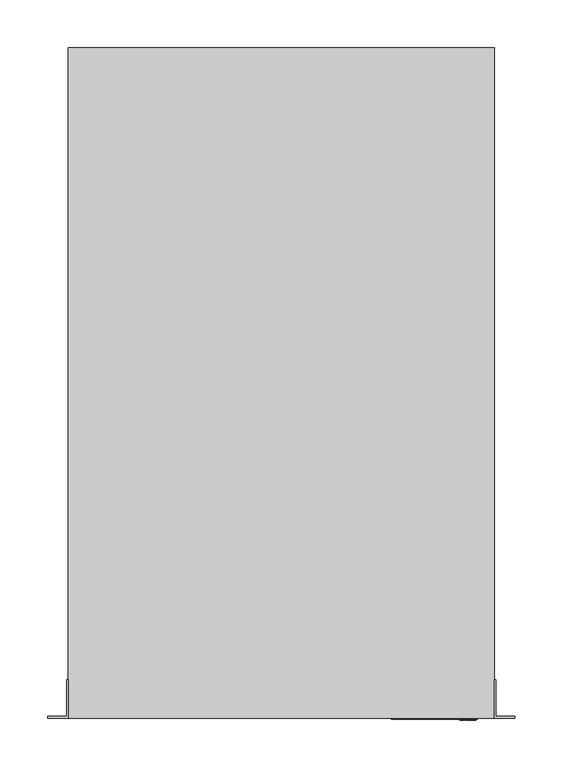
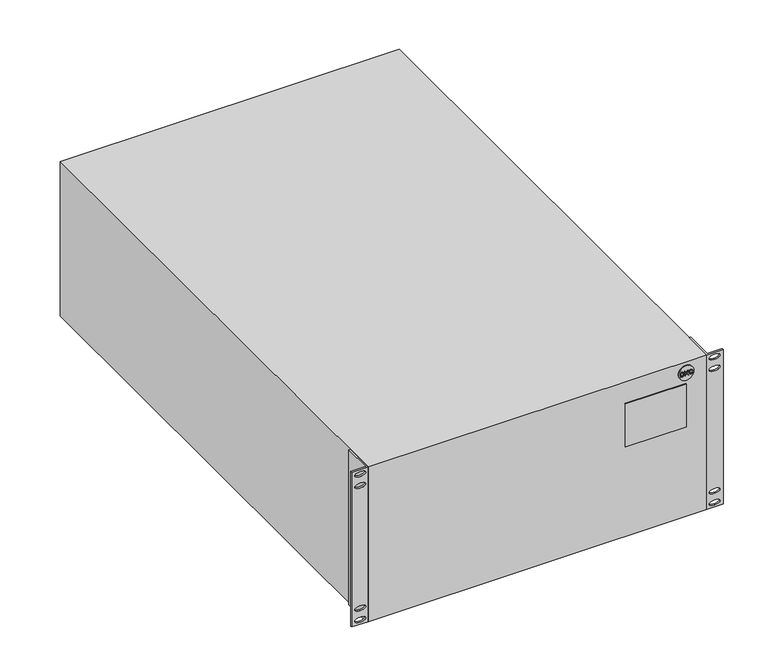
"""IFC4 building model written with IfcOpenShell, lengths in millimetres: proxy geometry, НВО_КНС_БатарейныйБлокSoloMD_DKC : BBC15P2A7."""

from ifc_helpers import new_model, si_unit, point, frame, frame_2d, origin, origin_with_axes, place, context, project, spatial, polyline, circle_curve, ellipse_curve, trimmed, segment, composite_curve, outline, extrude, source, transform, mapped, element, save
from ifc_brep_helpers import plane_surface, extruded_surface, advanced_brep


def electrical_equipment_2a145548(model_context):
    return source(origin(), model_context, "Body", "SolidModel", [
        extrude(outline(polyline([(197.0, 186.8536211), (197.0, 189.032954), (197.103007, 190.0019552), (197.9520786, 191.2726196), (198.829845, 191.6846475), (200.0460629, 191.845044), (201.4793312, 191.608128), (202.5094008, 190.8944369), (202.9405585, 190.0085771), (203.0273786, 188.9328901), (203.0273786, 186.8536211), (197.0, 186.8536211)]), holes=[polyline([(197.7534223, 187.6070434), (202.2739563, 187.6070434), (202.2739563, 188.9196464), (202.153291, 189.9879757), (201.4852173, 190.7700928), (200.0578351, 191.0916217), (198.9181367, 190.9275463), (197.8623154, 189.9099847), (197.7534223, 188.9402478), (197.7534223, 187.6070434)])]), frame((0.0, -2.0, 0.0), z_axis=(0.0, 1.0, 0.0), x_axis=(0.0, 0.0, 1.0)), (0.0, 0.0, 1.0), 6.0),
        extrude(outline(polyline([(197.0, 193.2577109), (199.0719114, 193.634422), (200.0401768, 194.6497763), (197.0, 196.9512461), (197.0, 197.8724226), (200.5493255, 195.183941), (203.0273786, 197.7782448), (203.0273786, 196.7246308), (200.076965, 193.634422), (203.0273786, 192.8809997), (197.0, 193.2577109)])), frame((0.0, -2.0, 0.0), z_axis=(0.0, 1.0, 0.0), x_axis=(0.0, 0.0, 1.0)), (0.0, 0.0, 1.0), 6.0),
        extrude(outline(polyline([(199.1425447, 202.6754899), (198.0330126, 202.036111), (197.6592445, 200.8831689), (197.9336845, 199.8435343), (198.7628905, 199.1357294), (200.0607782, 198.9083783), (201.180611, 199.1004127), (202.0458694, 199.7662791), (202.3681341, 200.944973), (202.0775073, 201.9632704), (201.3307068, 203.3347345), (202.652139, 202.4834555), (203.1215564, 200.9744036), (202.7588248, 199.5264201), (201.6971173, 198.5118015), (200.0593067, 198.154956), (198.4479835, 198.4705987), (197.3016632, 199.3903037), (196.9058222, 200.9582168), (197.4289504, 202.5356948), (199.1425447, 202.6754899)])), frame((0.0, -2.0, 0.0), z_axis=(0.0, 1.0, 0.0), x_axis=(0.0, 0.0, 1.0)), (0.0, 0.0, 1.0), 6.0),
        extrude(outline(composite_curve([segment(trimmed(circle_curve(frame_2d((200.0, 195.0)), 10.0), [point((200.0, 185.0))], [point((200.0, 205.0))], False, "CARTESIAN"), True, "CONTINUOUS"), segment(trimmed(circle_curve(frame_2d((200.0, 195.0)), 10.0), [point((200.0, 205.0))], [point((200.0, 185.0))], False, "CARTESIAN"), True, "CONTINUOUS")], self_intersect=False)), frame((0.0, -1.0, 0.0), z_axis=(0.0, 1.0, 0.0), x_axis=(0.0, 0.0, 1.0)), (0.0, 0.0, 1.0), 10.0),
        advanced_brep(
        [(222.5, 0.0, 215.0), (244.0, 0.0, 215.0), (244.0, 2.0, 215.0), (224.5, 2.0, 215.0), (224.5, 40.0, 215.0), (222.5, 40.0, 215.0), (222.5, 0.0, 0.0), (222.5, 40.0, 0.0), (224.5, 40.0, 0.0), (224.5, 2.0, 0.0), (244.0, 2.0, 0.0), (244.0, 0.0, 0.0), (239.8663983, 0.0, 208.7), (225.4663983, 0.0, 208.7), (239.8663983, 0.0, 192.7), (225.4663983, 0.0, 192.7), (239.8663983, 0.0, 22.3), (225.4663983, 0.0, 22.3), (239.8663983, 0.0, 6.3), (225.4663983, 0.0, 6.3), (225.4663983, 2.0, 208.7), (239.8663983, 2.0, 208.7), (225.4663983, 2.0, 192.7), (239.8663983, 2.0, 192.7), (225.4663983, 2.0, 22.3), (239.8663983, 2.0, 22.3), (225.4663983, 2.0, 6.3), (239.8663983, 2.0, 6.3)],
        [
            (0, 1),
            (1, 2),
            (2, 3),
            (3, 4),
            (4, 5),
            (5, 0),
            (6, 7),
            (7, 8),
            (8, 9),
            (9, 10),
            (10, 11),
            (11, 6),
            (0, 6),
            (11, 1),
            (12, 13, ellipse_curve(frame((232.6663983, 0.0, 208.7), z_axis=(0.0, 1.0, 0.0), x_axis=(-1.0, 0.0, 0.0)), 7.2, 3.3)),
            (13, 12, ellipse_curve(frame((232.6663983, 0.0, 208.7), z_axis=(0.0, 1.0, 0.0), x_axis=(-1.0, 0.0, 0.0)), 7.2, 3.3)),
            (14, 15, ellipse_curve(frame((232.6663983, 0.0, 192.7), z_axis=(0.0, 1.0, 0.0), x_axis=(-1.0, 0.0, 0.0)), 7.2, 3.3)),
            (15, 14, ellipse_curve(frame((232.6663983, 0.0, 192.7), z_axis=(0.0, 1.0, 0.0), x_axis=(-1.0, 0.0, 0.0)), 7.2, 3.3)),
            (16, 17, ellipse_curve(frame((232.6663983, 0.0, 22.3), z_axis=(0.0, 1.0, 0.0), x_axis=(-1.0, 0.0, 0.0)), 7.2, 3.3)),
            (17, 16, ellipse_curve(frame((232.6663983, 0.0, 22.3), z_axis=(0.0, 1.0, 0.0), x_axis=(-1.0, 0.0, 0.0)), 7.2, 3.3)),
            (18, 19, ellipse_curve(frame((232.6663983, 0.0, 6.3), z_axis=(0.0, 1.0, 0.0), x_axis=(-1.0, 0.0, 0.0)), 7.2, 3.3)),
            (19, 18, ellipse_curve(frame((232.6663983, 0.0, 6.3), z_axis=(0.0, 1.0, 0.0), x_axis=(-1.0, 0.0, 0.0)), 7.2, 3.3)),
            (10, 2),
            (9, 3),
            (20, 21, ellipse_curve(frame((232.6663983, 2.0, 208.7), z_axis=(0.0, -1.0, 0.0), x_axis=(-1.0, 0.0, 0.0)), 7.2, 3.3)),
            (21, 20, ellipse_curve(frame((232.6663983, 2.0, 208.7), z_axis=(0.0, -1.0, 0.0), x_axis=(-1.0, 0.0, 0.0)), 7.2, 3.3)),
            (22, 23, ellipse_curve(frame((232.6663983, 2.0, 192.7), z_axis=(0.0, -1.0, 0.0), x_axis=(-1.0, 0.0, 0.0)), 7.2, 3.3)),
            (23, 22, ellipse_curve(frame((232.6663983, 2.0, 192.7), z_axis=(0.0, -1.0, 0.0), x_axis=(-1.0, 0.0, 0.0)), 7.2, 3.3)),
            (24, 25, ellipse_curve(frame((232.6663983, 2.0, 22.3), z_axis=(0.0, -1.0, 0.0), x_axis=(-1.0, 0.0, 0.0)), 7.2, 3.3)),
            (25, 24, ellipse_curve(frame((232.6663983, 2.0, 22.3), z_axis=(0.0, -1.0, 0.0), x_axis=(-1.0, 0.0, 0.0)), 7.2, 3.3)),
            (26, 27, ellipse_curve(frame((232.6663983, 2.0, 6.3), z_axis=(0.0, -1.0, 0.0), x_axis=(-1.0, 0.0, 0.0)), 7.2, 3.3)),
            (27, 26, ellipse_curve(frame((232.6663983, 2.0, 6.3), z_axis=(0.0, -1.0, 0.0), x_axis=(-1.0, 0.0, 0.0)), 7.2, 3.3)),
            (8, 4),
            (7, 5),
            (12, 21),
            (20, 13),
            (14, 23),
            (22, 15),
            (16, 25),
            (24, 17),
            (18, 27),
            (26, 19),
        ],
        [
            plane_surface(frame((222.5, 0.0, 215.0), z_axis=(0.0, 0.0, 1.0), x_axis=(1.0, 0.0, 0.0))),
            plane_surface(frame((222.5, 0.0, 0.0), z_axis=(0.0, 0.0, -1.0), x_axis=(-1.0, 0.0, 0.0))),
            plane_surface(frame((222.5, 0.0, 215.0), z_axis=(0.0, -1.0, 0.0), x_axis=(0.0, 0.0, -1.0))),
            plane_surface(frame((244.0, 0.0, 215.0), z_axis=(1.0, 0.0, 0.0), x_axis=(0.0, 0.0, -1.0))),
            plane_surface(frame((244.0, 2.0, 215.0), z_axis=(0.0, 1.0, 0.0), x_axis=(0.0, 0.0, -1.0))),
            plane_surface(frame((224.5, 2.0, 215.0), z_axis=(1.0, 0.0, 0.0), x_axis=(0.0, 0.0, -1.0))),
            plane_surface(frame((224.5, 40.0, 215.0), z_axis=(0.0, 1.0, 0.0), x_axis=(0.0, 0.0, -1.0))),
            plane_surface(frame((222.5, 40.0, 215.0), z_axis=(-1.0, 0.0, 0.0), x_axis=(0.0, 0.0, -1.0))),
            extruded_surface(trimmed(ellipse_curve(frame((232.6663983, 2.0, 208.7), z_axis=(0.0, -1.0, 0.0), x_axis=(-1.0, 0.0, 0.0)), 7.2, 3.3), [point((225.4663983, 2.0, 208.7))], [point((239.8663983, 2.0, 208.7))], True, "CARTESIAN"), (0.0, 2.0, 0.0), 2.0),
            extruded_surface(trimmed(ellipse_curve(frame((232.6663983, 2.0, 208.7), z_axis=(0.0, -1.0, 0.0), x_axis=(-1.0, 0.0, 0.0)), 7.2, 3.3), [point((239.8663983, 2.0, 208.7))], [point((225.4663983, 2.0, 208.7))], True, "CARTESIAN"), (0.0, 2.0, 0.0), 2.0),
            extruded_surface(trimmed(ellipse_curve(frame((232.6663983, 0.0, 192.7), z_axis=(0.0, -1.0, 0.0), x_axis=(-1.0, 0.0, 0.0)), 7.2, 3.3), [point((225.4663983, 0.0, 192.7))], [point((239.8663983, 0.0, 192.7))], True, "CARTESIAN"), (0.0, 2.0, 0.0), 2.0),
            extruded_surface(trimmed(ellipse_curve(frame((232.6663983, 0.0, 192.7), z_axis=(0.0, -1.0, 0.0), x_axis=(-1.0, 0.0, 0.0)), 7.2, 3.3), [point((239.8663983, 0.0, 192.7))], [point((225.4663983, 0.0, 192.7))], True, "CARTESIAN"), (0.0, 2.0, 0.0), 2.0),
            extruded_surface(trimmed(ellipse_curve(frame((232.6663983, 2.0, 22.3), z_axis=(0.0, -1.0, 0.0), x_axis=(-1.0, 0.0, 0.0)), 7.2, 3.3), [point((225.4663983, 2.0, 22.3))], [point((239.8663983, 2.0, 22.3))], True, "CARTESIAN"), (0.0, 2.0, 0.0), 2.0),
            extruded_surface(trimmed(ellipse_curve(frame((232.6663983, 2.0, 22.3), z_axis=(0.0, -1.0, 0.0), x_axis=(-1.0, 0.0, 0.0)), 7.2, 3.3), [point((239.8663983, 2.0, 22.3))], [point((225.4663983, 2.0, 22.3))], True, "CARTESIAN"), (0.0, 2.0, 0.0), 2.0),
            extruded_surface(trimmed(ellipse_curve(frame((232.6663983, 0.0, 6.3), z_axis=(0.0, -1.0, 0.0), x_axis=(-1.0, 0.0, 0.0)), 7.2, 3.3), [point((225.4663983, 0.0, 6.3))], [point((239.8663983, 0.0, 6.3))], True, "CARTESIAN"), (0.0, 2.0, 0.0), 2.0),
            extruded_surface(trimmed(ellipse_curve(frame((232.6663983, 0.0, 6.3), z_axis=(0.0, -1.0, 0.0), x_axis=(-1.0, 0.0, 0.0)), 7.2, 3.3), [point((239.8663983, 0.0, 6.3))], [point((225.4663983, 0.0, 6.3))], True, "CARTESIAN"), (0.0, 2.0, 0.0), 2.0),
        ],
        [
            (0, [[1, 2, 3, 4, 5, 6]]),
            (1, [[7, 8, 9, 10, 11, 12]]),
            (2, [[-1, 13, -12, 14], [15, 16], [17, 18], [19, 20], [21, 22]]),
            (3, [[-2, -14, -11, 23]]),
            (4, [[-3, -23, -10, 24], [25, 26], [27, 28], [29, 30], [31, 32]]),
            (5, [[-4, -24, -9, 33]]),
            (6, [[-5, -33, -8, 34]]),
            (7, [[-6, -34, -7, -13]]),
            (8, [[35, -25, 36, -15]]),
            (9, [[-35, -16, -36, -26]]),
            (10, [[37, -27, 38, -17]]),
            (11, [[-37, -18, -38, -28]]),
            (12, [[39, -29, 40, -19]]),
            (13, [[-39, -20, -40, -30]]),
            (14, [[41, -31, 42, -21]]),
            (15, [[-41, -22, -42, -32]]),
        ],
    ),
        advanced_brep(
        [(-224.5, 2.0, 215.0), (-244.0, 2.0, 215.0), (-244.0, 0.0, 215.0), (-222.5, 0.0, 215.0), (-222.5, 40.0, 215.0), (-224.5, 40.0, 215.0), (-224.5, 2.0, 0.0), (-224.5, 40.0, 0.0), (-222.5, 40.0, 0.0), (-222.5, 0.0, 0.0), (-244.0, 0.0, 0.0), (-244.0, 2.0, 0.0), (-239.8663983, 2.0, 208.7), (-225.4663983, 2.0, 208.7), (-239.8663983, 2.0, 192.7), (-225.4663983, 2.0, 192.7), (-239.8663983, 2.0, 22.3), (-225.4663983, 2.0, 22.3), (-239.8663983, 2.0, 6.3), (-225.4663983, 2.0, 6.3), (-225.4663983, 0.0, 208.7), (-239.8663983, 0.0, 208.7), (-225.4663983, 0.0, 192.7), (-239.8663983, 0.0, 192.7), (-225.4663983, 0.0, 22.3), (-239.8663983, 0.0, 22.3), (-225.4663983, 0.0, 6.3), (-239.8663983, 0.0, 6.3)],
        [
            (0, 1),
            (1, 2),
            (2, 3),
            (3, 4),
            (4, 5),
            (5, 0),
            (6, 7),
            (7, 8),
            (8, 9),
            (9, 10),
            (10, 11),
            (11, 6),
            (0, 6),
            (11, 1),
            (12, 13, ellipse_curve(frame((-232.6663983, 2.0, 208.7), z_axis=(0.0, -1.0, 0.0), x_axis=(1.0, 0.0, 0.0)), 7.2, 3.3)),
            (13, 12, ellipse_curve(frame((-232.6663983, 2.0, 208.7), z_axis=(0.0, -1.0, 0.0), x_axis=(1.0, 0.0, 0.0)), 7.2, 3.3)),
            (14, 15, ellipse_curve(frame((-232.6663983, 2.0, 192.7), z_axis=(0.0, -1.0, 0.0), x_axis=(1.0, 0.0, 0.0)), 7.2, 3.3)),
            (15, 14, ellipse_curve(frame((-232.6663983, 2.0, 192.7), z_axis=(0.0, -1.0, 0.0), x_axis=(1.0, 0.0, 0.0)), 7.2, 3.3)),
            (16, 17, ellipse_curve(frame((-232.6663983, 2.0, 22.3), z_axis=(0.0, -1.0, 0.0), x_axis=(1.0, 0.0, 0.0)), 7.2, 3.3)),
            (17, 16, ellipse_curve(frame((-232.6663983, 2.0, 22.3), z_axis=(0.0, -1.0, 0.0), x_axis=(1.0, 0.0, 0.0)), 7.2, 3.3)),
            (18, 19, ellipse_curve(frame((-232.6663983, 2.0, 6.3), z_axis=(0.0, -1.0, 0.0), x_axis=(1.0, 0.0, 0.0)), 7.2, 3.3)),
            (19, 18, ellipse_curve(frame((-232.6663983, 2.0, 6.3), z_axis=(0.0, -1.0, 0.0), x_axis=(1.0, 0.0, 0.0)), 7.2, 3.3)),
            (10, 2),
            (9, 3),
            (20, 21, ellipse_curve(frame((-232.6663983, 0.0, 208.7), z_axis=(0.0, 1.0, 0.0), x_axis=(1.0, 0.0, 0.0)), 7.2, 3.3)),
            (21, 20, ellipse_curve(frame((-232.6663983, 0.0, 208.7), z_axis=(0.0, 1.0, 0.0), x_axis=(1.0, 0.0, 0.0)), 7.2, 3.3)),
            (22, 23, ellipse_curve(frame((-232.6663983, 0.0, 192.7), z_axis=(0.0, 1.0, 0.0), x_axis=(1.0, 0.0, 0.0)), 7.2, 3.3)),
            (23, 22, ellipse_curve(frame((-232.6663983, 0.0, 192.7), z_axis=(0.0, 1.0, 0.0), x_axis=(1.0, 0.0, 0.0)), 7.2, 3.3)),
            (24, 25, ellipse_curve(frame((-232.6663983, 0.0, 22.3), z_axis=(0.0, 1.0, 0.0), x_axis=(1.0, 0.0, 0.0)), 7.2, 3.3)),
            (25, 24, ellipse_curve(frame((-232.6663983, 0.0, 22.3), z_axis=(0.0, 1.0, 0.0), x_axis=(1.0, 0.0, 0.0)), 7.2, 3.3)),
            (26, 27, ellipse_curve(frame((-232.6663983, 0.0, 6.3), z_axis=(0.0, 1.0, 0.0), x_axis=(1.0, 0.0, 0.0)), 7.2, 3.3)),
            (27, 26, ellipse_curve(frame((-232.6663983, 0.0, 6.3), z_axis=(0.0, 1.0, 0.0), x_axis=(1.0, 0.0, 0.0)), 7.2, 3.3)),
            (8, 4),
            (7, 5),
            (20, 13),
            (12, 21),
            (22, 15),
            (14, 23),
            (24, 17),
            (16, 25),
            (26, 19),
            (18, 27),
        ],
        [
            plane_surface(frame((-224.5, 2.0, 215.0), z_axis=(0.0, 0.0, 1.0), x_axis=(-1.0, 0.0, 0.0))),
            plane_surface(frame((-224.5, 2.0, 0.0), z_axis=(0.0, 0.0, -1.0), x_axis=(1.0, 0.0, 0.0))),
            plane_surface(frame((-224.5, 2.0, 215.0), z_axis=(0.0, 1.0, 0.0), x_axis=(0.0, 0.0, -1.0))),
            plane_surface(frame((-244.0, 2.0, 215.0), z_axis=(-1.0, 0.0, 0.0), x_axis=(0.0, 0.0, -1.0))),
            plane_surface(frame((-244.0, 0.0, 215.0), z_axis=(0.0, -1.0, 0.0), x_axis=(0.0, 0.0, -1.0))),
            plane_surface(frame((-222.5, 0.0, 215.0), z_axis=(1.0, 0.0, 0.0), x_axis=(0.0, 0.0, -1.0))),
            plane_surface(frame((-222.5, 40.0, 215.0), z_axis=(0.0, 1.0, 0.0), x_axis=(0.0, 0.0, -1.0))),
            plane_surface(frame((-224.5, 40.0, 215.0), z_axis=(-1.0, 0.0, 0.0), x_axis=(0.0, 0.0, -1.0))),
            extruded_surface(trimmed(ellipse_curve(frame((-232.6663983, 2.0, 208.7), z_axis=(0.0, -1.0, 0.0), x_axis=(1.0, 0.0, 0.0)), 7.2, 3.3), [point((-239.8663983, 2.0, 208.7))], [point((-225.4663983, 2.0, 208.7))], True, "CARTESIAN"), (0.0, 2.0, 0.0), 2.0),
            extruded_surface(trimmed(ellipse_curve(frame((-232.6663983, 2.0, 208.7), z_axis=(0.0, -1.0, 0.0), x_axis=(1.0, 0.0, 0.0)), 7.2, 3.3), [point((-225.4663983, 2.0, 208.7))], [point((-239.8663983, 2.0, 208.7))], True, "CARTESIAN"), (0.0, 2.0, 0.0), 2.0),
            extruded_surface(trimmed(ellipse_curve(frame((-232.6663983, 0.0, 192.7), z_axis=(0.0, -1.0, 0.0), x_axis=(1.0, 0.0, 0.0)), 7.2, 3.3), [point((-239.8663983, 0.0, 192.7))], [point((-225.4663983, 0.0, 192.7))], True, "CARTESIAN"), (0.0, 2.0, 0.0), 2.0),
            extruded_surface(trimmed(ellipse_curve(frame((-232.6663983, 0.0, 192.7), z_axis=(0.0, -1.0, 0.0), x_axis=(1.0, 0.0, 0.0)), 7.2, 3.3), [point((-225.4663983, 0.0, 192.7))], [point((-239.8663983, 0.0, 192.7))], True, "CARTESIAN"), (0.0, 2.0, 0.0), 2.0),
            extruded_surface(trimmed(ellipse_curve(frame((-232.6663983, 2.0, 22.3), z_axis=(0.0, -1.0, 0.0), x_axis=(1.0, 0.0, 0.0)), 7.2, 3.3), [point((-239.8663983, 2.0, 22.3))], [point((-225.4663983, 2.0, 22.3))], True, "CARTESIAN"), (0.0, 2.0, 0.0), 2.0),
            extruded_surface(trimmed(ellipse_curve(frame((-232.6663983, 2.0, 22.3), z_axis=(0.0, -1.0, 0.0), x_axis=(1.0, 0.0, 0.0)), 7.2, 3.3), [point((-225.4663983, 2.0, 22.3))], [point((-239.8663983, 2.0, 22.3))], True, "CARTESIAN"), (0.0, 2.0, 0.0), 2.0),
            extruded_surface(trimmed(ellipse_curve(frame((-232.6663983, 0.0, 6.3), z_axis=(0.0, -1.0, 0.0), x_axis=(1.0, 0.0, 0.0)), 7.2, 3.3), [point((-239.8663983, 0.0, 6.3))], [point((-225.4663983, 0.0, 6.3))], True, "CARTESIAN"), (0.0, 2.0, 0.0), 2.0),
            extruded_surface(trimmed(ellipse_curve(frame((-232.6663983, 0.0, 6.3), z_axis=(0.0, -1.0, 0.0), x_axis=(1.0, 0.0, 0.0)), 7.2, 3.3), [point((-225.4663983, 0.0, 6.3))], [point((-239.8663983, 0.0, 6.3))], True, "CARTESIAN"), (0.0, 2.0, 0.0), 2.0),
        ],
        [
            (0, [[1, 2, 3, 4, 5, 6]]),
            (1, [[7, 8, 9, 10, 11, 12]]),
            (2, [[-1, 13, -12, 14], [15, 16], [17, 18], [19, 20], [21, 22]]),
            (3, [[-2, -14, -11, 23]]),
            (4, [[-3, -23, -10, 24], [25, 26], [27, 28], [29, 30], [31, 32]]),
            (5, [[-4, -24, -9, 33]]),
            (6, [[-5, -33, -8, 34]]),
            (7, [[-6, -34, -7, -13]]),
            (8, [[35, -15, 36, -25]]),
            (9, [[-35, -26, -36, -16]]),
            (10, [[37, -17, 38, -27]]),
            (11, [[-37, -28, -38, -18]]),
            (12, [[39, -19, 40, -29]]),
            (13, [[-39, -30, -40, -20]]),
            (14, [[41, -21, 42, -31]]),
            (15, [[-41, -32, -42, -22]]),
        ],
    ),
        extrude(outline(polyline([(195.0, -1.0), (115.0, -1.0), (115.0, 0.0), (195.0, 0.0), (195.0, -1.0)])), frame((0.0, 0.0, 125.0), z_axis=(0.0, 0.0, 1.0), x_axis=(1.0, 0.0, 0.0)), (0.0, 0.0, 1.0), 60.0),
        extrude(outline(polyline([(222.5, 0.0), (-222.5, 0.0), (-222.5, 700.0), (222.5, 700.0), (222.5, 0.0)])), origin_with_axes(), (0.0, 0.0, 1.0), 215.0),
    ])


if __name__ == "__main__":
    model = new_model("IFC4")
    model_context = context("Model", 3, world=origin())
    ifc_project = project(units=[si_unit("LENGTHUNIT", "METRE", prefix="MILLI")], contexts=[model_context])
    site = spatial("IfcSite", under=ifc_project)
    building = spatial("IfcBuilding", under=site)
    placement = place(None, origin())
    electrical_equipment_shape = electrical_equipment_2a145548(model_context)
    element("IfcBuildingElementProxy", 1, Name="НВО_КНС_БатарейныйБлокSoloMD_DKC : BBC15P2A7", ObjectType="НВО_КНС_БатарейныйБлокSoloMD_DKC : BBC15P2A7", at=placement, inside=building, context=model_context, shape_type="MappedRepresentation", body=[
        mapped(electrical_equipment_shape, transform((0.0, 0.0, 0.0), x_axis=(1.0, 0.0, 0.0), y_axis=(0.0, 1.0, 0.0), z_axis=(0.0, 0.0, 1.0))),
    ])
    save(model, "model.ifc")
